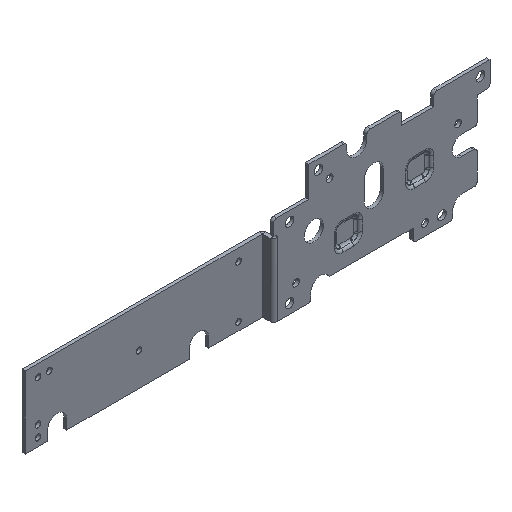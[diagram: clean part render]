
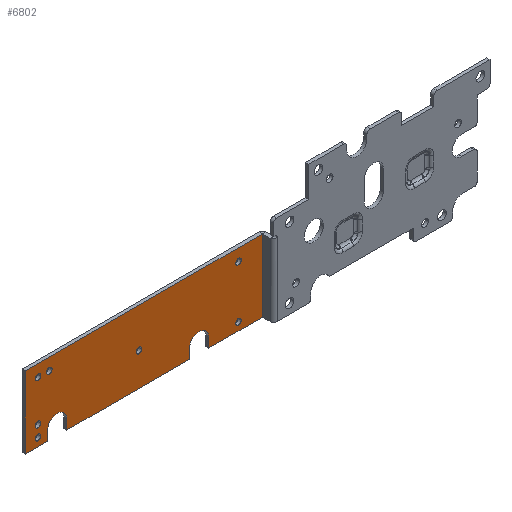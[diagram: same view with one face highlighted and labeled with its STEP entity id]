
A CAD part, isometric view. The second image highlights one B-rep face of the part: STEP entity #6802.
In plain terms, the highlighted planar face has unit normal (0, -1, 0).
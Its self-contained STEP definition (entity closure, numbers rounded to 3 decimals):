
#1959=CARTESIAN_POINT('',(-128.,6.9,10.));
#1960=DIRECTION('',(0.,1.,0.));
#1961=DIRECTION('',(-0.929,0.,0.371));
#1962=AXIS2_PLACEMENT_3D('',#1959,#1960,#1961);
#1967=CARTESIAN_POINT('',(-128.,6.9,10.));
#1968=DIRECTION('',(0.,1.,0.));
#1969=DIRECTION('',(-0.929,0.,-0.371));
#1970=AXIS2_PLACEMENT_3D('',#1967,#1968,#1969);
#1975=DIRECTION('',(0.,0.,1.));
#1976=VECTOR('',#1975,6.);
#1977=CARTESIAN_POINT('',(-28.5,6.9,-27.5));
#1978=LINE('',#1977,#1976);
#1982=CARTESIAN_POINT('',(-34.5,6.9,-21.5));
#1983=DIRECTION('',(0.,-1.,0.));
#1984=DIRECTION('',(1.,0.,0.));
#1985=AXIS2_PLACEMENT_3D('',#1982,#1983,#1984);
#1990=DIRECTION('',(-1.,0.,0.));
#1991=VECTOR('',#1990,76.5);
#1992=CARTESIAN_POINT('',(-40.5,6.9,-27.5));
#1993=LINE('',#1992,#1991);
#1997=DIRECTION('',(0.,0.,1.));
#1998=VECTOR('',#1997,6.);
#1999=CARTESIAN_POINT('',(-117.,6.9,-27.5));
#2000=LINE('',#1999,#1998);
#2004=CARTESIAN_POINT('',(-123.,6.9,-21.5));
#2005=DIRECTION('',(0.,-1.,0.));
#2006=DIRECTION('',(1.,0.,0.));
#2007=AXIS2_PLACEMENT_3D('',#2004,#2005,#2006);
#2012=DIRECTION('',(-1.,0.,0.));
#2013=VECTOR('',#2012,14.);
#2014=CARTESIAN_POINT('',(-129.,6.9,-27.5));
#2015=LINE('',#2014,#2013);
#2019=DIRECTION('',(0.,0.,1.));
#2020=VECTOR('',#2019,45.);
#2021=CARTESIAN_POINT('',(-143.,6.9,-27.5));
#2022=LINE('',#2021,#2020);
#2026=DIRECTION('',(1.,0.,0.));
#2027=VECTOR('',#2026,147.8);
#2028=CARTESIAN_POINT('',(-143.,6.9,17.5));
#2029=LINE('',#2028,#2027);
#2033=DIRECTION('',(-1.,0.,0.));
#2034=VECTOR('',#2033,33.3);
#2035=CARTESIAN_POINT('',(4.8,6.9,-27.5));
#2036=LINE('',#2035,#2034);
#2040=CARTESIAN_POINT('',(-10.,6.9,-22.5));
#2041=DIRECTION('',(0.,-1.,0.));
#2042=DIRECTION('',(1.,0.,0.));
#2043=AXIS2_PLACEMENT_3D('',#2040,#2041,#2042);
#2048=CARTESIAN_POINT('',(-10.,6.9,-22.5));
#2049=DIRECTION('',(0.,-1.,0.));
#2050=DIRECTION('',(-1.,0.,0.));
#2051=AXIS2_PLACEMENT_3D('',#2048,#2049,#2050);
#2056=CARTESIAN_POINT('',(-10.,6.9,10.));
#2057=DIRECTION('',(0.,-1.,0.));
#2058=DIRECTION('',(1.,0.,0.));
#2059=AXIS2_PLACEMENT_3D('',#2056,#2057,#2058);
#2064=CARTESIAN_POINT('',(-10.,6.9,10.));
#2065=DIRECTION('',(0.,-1.,0.));
#2066=DIRECTION('',(-1.,0.,0.));
#2067=AXIS2_PLACEMENT_3D('',#2064,#2065,#2066);
#2072=CARTESIAN_POINT('',(-72.,6.9,-7.));
#2073=DIRECTION('',(0.,-1.,0.));
#2074=DIRECTION('',(1.,0.,0.));
#2075=AXIS2_PLACEMENT_3D('',#2072,#2073,#2074);
#2080=CARTESIAN_POINT('',(-72.,6.9,-7.));
#2081=DIRECTION('',(0.,-1.,0.));
#2082=DIRECTION('',(-1.,0.,0.));
#2083=AXIS2_PLACEMENT_3D('',#2080,#2081,#2082);
#2088=CARTESIAN_POINT('',(-135.,6.9,10.));
#2089=DIRECTION('',(0.,-1.,0.));
#2090=DIRECTION('',(1.,0.,0.));
#2091=AXIS2_PLACEMENT_3D('',#2088,#2089,#2090);
#2096=CARTESIAN_POINT('',(-135.,6.9,10.));
#2097=DIRECTION('',(0.,-1.,0.));
#2098=DIRECTION('',(-1.,0.,0.));
#2099=AXIS2_PLACEMENT_3D('',#2096,#2097,#2098);
#2104=CARTESIAN_POINT('',(-135.,6.9,-22.5));
#2105=DIRECTION('',(0.,-1.,0.));
#2106=DIRECTION('',(1.,0.,0.));
#2107=AXIS2_PLACEMENT_3D('',#2104,#2105,#2106);
#2112=CARTESIAN_POINT('',(-135.,6.9,-22.5));
#2113=DIRECTION('',(0.,-1.,0.));
#2114=DIRECTION('',(-1.,0.,0.));
#2115=AXIS2_PLACEMENT_3D('',#2112,#2113,#2114);
#2120=CARTESIAN_POINT('',(-135.,6.9,-15.5));
#2121=DIRECTION('',(0.,-1.,0.));
#2122=DIRECTION('',(-1.,0.,0.));
#2123=AXIS2_PLACEMENT_3D('',#2120,#2121,#2122);
#2128=CARTESIAN_POINT('',(-135.,6.9,-15.5));
#2129=DIRECTION('',(0.,1.,0.));
#2130=DIRECTION('',(-1.,0.,0.));
#2131=AXIS2_PLACEMENT_3D('',#2128,#2129,#2130);
#2180=DIRECTION('',(0.,0.,1.));
#2181=VECTOR('',#2180,45.);
#2182=CARTESIAN_POINT('',(4.8,6.9,-27.5));
#2183=LINE('',#2182,#2181);
#2266=DIRECTION('',(0.,0.,1.));
#2267=VECTOR('',#2266,6.);
#2268=CARTESIAN_POINT('',(-129.,6.9,-27.5));
#2269=LINE('',#2268,#2267);
#2315=DIRECTION('',(0.,0.,1.));
#2316=VECTOR('',#2315,6.);
#2317=CARTESIAN_POINT('',(-40.5,6.9,-27.5));
#2318=LINE('',#2317,#2316);
#5227=CARTESIAN_POINT('',(-28.5,6.9,-27.5));
#5228=CARTESIAN_POINT('',(-28.5,6.9,-21.5));
#5229=VERTEX_POINT('',#5227);
#5230=VERTEX_POINT('',#5228);
#5231=CARTESIAN_POINT('',(-40.5,6.9,-21.5));
#5232=VERTEX_POINT('',#5231);
#5233=CARTESIAN_POINT('',(-40.5,6.9,-27.5));
#5234=VERTEX_POINT('',#5233);
#5235=CARTESIAN_POINT('',(-117.,6.9,-27.5));
#5236=VERTEX_POINT('',#5235);
#5237=CARTESIAN_POINT('',(-117.,6.9,-21.5));
#5238=VERTEX_POINT('',#5237);
#5239=CARTESIAN_POINT('',(-129.,6.9,-21.5));
#5240=VERTEX_POINT('',#5239);
#5241=CARTESIAN_POINT('',(-129.,6.9,-27.5));
#5242=VERTEX_POINT('',#5241);
#5243=CARTESIAN_POINT('',(-143.,6.9,-27.5));
#5244=VERTEX_POINT('',#5243);
#5245=CARTESIAN_POINT('',(-143.,6.9,17.5));
#5246=VERTEX_POINT('',#5245);
#5247=CARTESIAN_POINT('',(4.8,6.9,17.5));
#5248=VERTEX_POINT('',#5247);
#5249=CARTESIAN_POINT('',(4.8,6.9,-27.5));
#5250=VERTEX_POINT('',#5249);
#5251=CARTESIAN_POINT('',(-8.25,6.9,-22.5));
#5252=CARTESIAN_POINT('',(-11.75,6.9,-22.5));
#5253=VERTEX_POINT('',#5251);
#5254=VERTEX_POINT('',#5252);
#5255=CARTESIAN_POINT('',(-8.25,6.9,10.));
#5256=CARTESIAN_POINT('',(-11.75,6.9,10.));
#5257=VERTEX_POINT('',#5255);
#5258=VERTEX_POINT('',#5256);
#5259=CARTESIAN_POINT('',(-70.25,6.9,-7.));
#5260=CARTESIAN_POINT('',(-73.75,6.9,-7.));
#5261=VERTEX_POINT('',#5259);
#5262=VERTEX_POINT('',#5260);
#5263=CARTESIAN_POINT('',(-133.25,6.9,10.));
#5264=CARTESIAN_POINT('',(-136.75,6.9,10.));
#5265=VERTEX_POINT('',#5263);
#5266=VERTEX_POINT('',#5264);
#5267=CARTESIAN_POINT('',(-133.25,6.9,-22.5));
#5268=CARTESIAN_POINT('',(-136.75,6.9,-22.5));
#5269=VERTEX_POINT('',#5267);
#5270=VERTEX_POINT('',#5268);
#5405=CARTESIAN_POINT('',(-133.25,6.9,-15.5));
#5406=VERTEX_POINT('',#5405);
#5407=CARTESIAN_POINT('',(-136.75,6.9,-15.5));
#5408=VERTEX_POINT('',#5407);
#5413=CARTESIAN_POINT('',(-129.625,6.9,10.65));
#5414=CARTESIAN_POINT('',(-129.625,6.9,9.35));
#5415=VERTEX_POINT('',#5413);
#5416=VERTEX_POINT('',#5414);
#6731=CARTESIAN_POINT('',(7.,6.9,-27.5));
#6732=DIRECTION('',(0.,1.,0.));
#6733=DIRECTION('',(0.,0.,-1.));
#6734=AXIS2_PLACEMENT_3D('',#6731,#6732,#6733);
#6735=PLANE('',#6734);
#6737=ORIENTED_EDGE('',*,*,#6736,.T.);
#6739=ORIENTED_EDGE('',*,*,#6738,.T.);
#6741=ORIENTED_EDGE('',*,*,#6740,.F.);
#6743=ORIENTED_EDGE('',*,*,#6742,.T.);
#6745=ORIENTED_EDGE('',*,*,#6744,.T.);
#6747=ORIENTED_EDGE('',*,*,#6746,.T.);
#6749=ORIENTED_EDGE('',*,*,#6748,.F.);
#6751=ORIENTED_EDGE('',*,*,#6750,.T.);
#6753=ORIENTED_EDGE('',*,*,#6752,.T.);
#6755=ORIENTED_EDGE('',*,*,#6754,.T.);
#6757=ORIENTED_EDGE('',*,*,#6756,.F.);
#6759=ORIENTED_EDGE('',*,*,#6758,.T.);
#6760=EDGE_LOOP('',(#6737,#6739,#6741,#6743,#6745,#6747,#6749,#6751,#6753,#6755,
#6757,#6759));
#6761=FACE_OUTER_BOUND('',#6760,.F.);
#6762=ORIENTED_EDGE('',*,*,#6689,.F.);
#6763=ORIENTED_EDGE('',*,*,#6712,.F.);
#6764=EDGE_LOOP('',(#6762,#6763));
#6765=FACE_BOUND('',#6764,.F.);
#6767=ORIENTED_EDGE('',*,*,#6766,.T.);
#6769=ORIENTED_EDGE('',*,*,#6768,.T.);
#6770=EDGE_LOOP('',(#6767,#6769));
#6771=FACE_BOUND('',#6770,.F.);
#6773=ORIENTED_EDGE('',*,*,#6772,.T.);
#6775=ORIENTED_EDGE('',*,*,#6774,.T.);
#6776=EDGE_LOOP('',(#6773,#6775));
#6777=FACE_BOUND('',#6776,.F.);
#6779=ORIENTED_EDGE('',*,*,#6778,.T.);
#6781=ORIENTED_EDGE('',*,*,#6780,.T.);
#6782=EDGE_LOOP('',(#6779,#6781));
#6783=FACE_BOUND('',#6782,.F.);
#6785=ORIENTED_EDGE('',*,*,#6784,.T.);
#6787=ORIENTED_EDGE('',*,*,#6786,.T.);
#6788=EDGE_LOOP('',(#6785,#6787));
#6789=FACE_BOUND('',#6788,.F.);
#6791=ORIENTED_EDGE('',*,*,#6790,.T.);
#6793=ORIENTED_EDGE('',*,*,#6792,.T.);
#6794=EDGE_LOOP('',(#6791,#6793));
#6795=FACE_BOUND('',#6794,.F.);
#6797=ORIENTED_EDGE('',*,*,#6796,.T.);
#6799=ORIENTED_EDGE('',*,*,#6798,.F.);
#6800=EDGE_LOOP('',(#6797,#6799));
#6801=FACE_BOUND('',#6800,.F.);
#1963=CIRCLE('',#1962,1.75);
#1971=CIRCLE('',#1970,1.75);
#1986=CIRCLE('',#1985,6.);
#2008=CIRCLE('',#2007,6.);
#2044=CIRCLE('',#2043,1.75);
#2052=CIRCLE('',#2051,1.75);
#2060=CIRCLE('',#2059,1.75);
#2068=CIRCLE('',#2067,1.75);
#2076=CIRCLE('',#2075,1.75);
#2084=CIRCLE('',#2083,1.75);
#2092=CIRCLE('',#2091,1.75);
#2100=CIRCLE('',#2099,1.75);
#2108=CIRCLE('',#2107,1.75);
#2116=CIRCLE('',#2115,1.75);
#2124=CIRCLE('',#2123,1.75);
#2132=CIRCLE('',#2131,1.75);
#6689=EDGE_CURVE('',#5415,#5416,#1963,.T.);
#6712=EDGE_CURVE('',#5416,#5415,#1971,.T.);
#6736=EDGE_CURVE('',#5229,#5230,#1978,.T.);
#6738=EDGE_CURVE('',#5230,#5232,#1986,.T.);
#6740=EDGE_CURVE('',#5234,#5232,#2318,.T.);
#6742=EDGE_CURVE('',#5234,#5236,#1993,.T.);
#6744=EDGE_CURVE('',#5236,#5238,#2000,.T.);
#6746=EDGE_CURVE('',#5238,#5240,#2008,.T.);
#6748=EDGE_CURVE('',#5242,#5240,#2269,.T.);
#6750=EDGE_CURVE('',#5242,#5244,#2015,.T.);
#6752=EDGE_CURVE('',#5244,#5246,#2022,.T.);
#6754=EDGE_CURVE('',#5246,#5248,#2029,.T.);
#6756=EDGE_CURVE('',#5250,#5248,#2183,.T.);
#6758=EDGE_CURVE('',#5250,#5229,#2036,.T.);
#6766=EDGE_CURVE('',#5253,#5254,#2044,.T.);
#6768=EDGE_CURVE('',#5254,#5253,#2052,.T.);
#6772=EDGE_CURVE('',#5257,#5258,#2060,.T.);
#6774=EDGE_CURVE('',#5258,#5257,#2068,.T.);
#6778=EDGE_CURVE('',#5261,#5262,#2076,.T.);
#6780=EDGE_CURVE('',#5262,#5261,#2084,.T.);
#6784=EDGE_CURVE('',#5265,#5266,#2092,.T.);
#6786=EDGE_CURVE('',#5266,#5265,#2100,.T.);
#6790=EDGE_CURVE('',#5269,#5270,#2108,.T.);
#6792=EDGE_CURVE('',#5270,#5269,#2116,.T.);
#6796=EDGE_CURVE('',#5408,#5406,#2124,.T.);
#6798=EDGE_CURVE('',#5408,#5406,#2132,.T.);
#6802=ADVANCED_FACE('',(#6761,#6765,#6771,#6777,#6783,#6789,#6795,#6801),#6735,
.F.);
